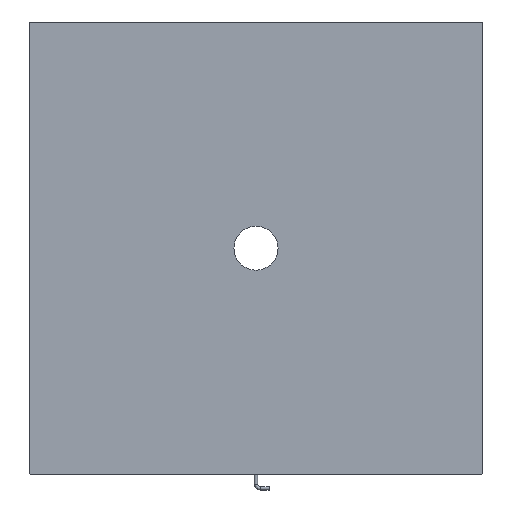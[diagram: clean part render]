
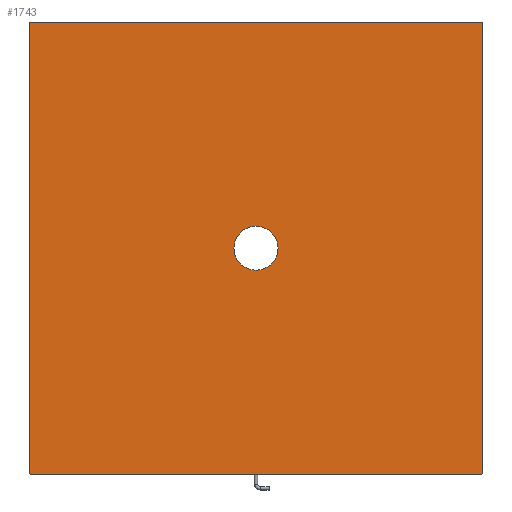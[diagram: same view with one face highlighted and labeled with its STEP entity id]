
A CAD part, top view. The second image highlights one B-rep face of the part: STEP entity #1743.
In plain terms, the highlighted planar face has unit normal (0, 0, 1).
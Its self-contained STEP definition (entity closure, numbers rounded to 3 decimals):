
#12 = VECTOR ( 'NONE', #502, 1000. ) ;
#22 = DIRECTION ( 'NONE',  ( 0., 0., -1. ) ) ;
#35 = VERTEX_POINT ( 'NONE', #1959 ) ;
#121 = VERTEX_POINT ( 'NONE', #1653 ) ;
#133 = VECTOR ( 'NONE', #416, 1000. ) ;
#158 = CARTESIAN_POINT ( 'NONE',  ( -257., -257., 40. ) ) ;
#217 = CARTESIAN_POINT ( 'NONE',  ( 0., 0., 40. ) ) ;
#219 = EDGE_CURVE ( 'NONE', #121, #324, #911, .T. ) ;
#230 = DIRECTION ( 'NONE',  ( 1., 0., 0. ) ) ;
#237 = CARTESIAN_POINT ( 'NONE',  ( 256.5, 257., 40. ) ) ;
#296 = VERTEX_POINT ( 'NONE', #237 ) ;
#303 = DIRECTION ( 'NONE',  ( 1., 0., 0. ) ) ;
#324 = VERTEX_POINT ( 'NONE', #1416 ) ;
#416 = DIRECTION ( 'NONE',  ( -0.707, -0.707, 0. ) ) ;
#423 = EDGE_CURVE ( 'NONE', #296, #1724, #2099, .T. ) ;
#425 = EDGE_LOOP ( 'NONE', ( #1160, #1150 ) ) ;
#432 = FACE_BOUND ( 'NONE', #425, .T. ) ;
#455 = LINE ( 'NONE', #1422, #133 ) ;
#476 = DIRECTION ( 'NONE',  ( -1., 0., 0. ) ) ;
#484 = ORIENTED_EDGE ( 'NONE', *, *, #823, .T. ) ;
#502 = DIRECTION ( 'NONE',  ( 0.707, 0.707, 0. ) ) ;
#513 = VECTOR ( 'NONE', #303, 1000. ) ;
#514 = DIRECTION ( 'NONE',  ( 0., 1., 0. ) ) ;
#515 = ORIENTED_EDGE ( 'NONE', *, *, #1679, .T. ) ;
#539 = CIRCLE ( 'NONE', #2033, 25. ) ;
#564 = EDGE_CURVE ( 'NONE', #1240, #1507, #1518, .T. ) ;
#617 = CARTESIAN_POINT ( 'NONE',  ( 256.5, 257., 40. ) ) ;
#681 = ORIENTED_EDGE ( 'NONE', *, *, #782, .T. ) ;
#686 = LINE ( 'NONE', #1690, #1988 ) ;
#700 = CARTESIAN_POINT ( 'NONE',  ( 257., 256.5, 40. ) ) ;
#718 = DIRECTION ( 'NONE',  ( 1., 0., 0. ) ) ;
#730 = VECTOR ( 'NONE', #1630, 1000. ) ;
#736 = EDGE_CURVE ( 'NONE', #1195, #296, #1732, .T. ) ;
#748 = VECTOR ( 'NONE', #1112, 1000. ) ;
#754 = LINE ( 'NONE', #158, #513 ) ;
#760 = ORIENTED_EDGE ( 'NONE', *, *, #736, .T. ) ;
#782 = EDGE_CURVE ( 'NONE', #35, #121, #754, .T. ) ;
#823 = EDGE_CURVE ( 'NONE', #324, #1195, #1212, .T. ) ;
#838 = CARTESIAN_POINT ( 'NONE',  ( 0., 0., 40. ) ) ;
#911 = LINE ( 'NONE', #2176, #12 ) ;
#929 = EDGE_LOOP ( 'NONE', ( #1952, #1523, #681, #1414, #484, #760, #992, #515 ) ) ;
#964 = VERTEX_POINT ( 'NONE', #1245 ) ;
#985 = CARTESIAN_POINT ( 'NONE',  ( -256.5, 257., 40. ) ) ;
#992 = ORIENTED_EDGE ( 'NONE', *, *, #423, .T. ) ;
#1112 = DIRECTION ( 'NONE',  ( 0., -1., 0. ) ) ;
#1124 = DIRECTION ( 'NONE',  ( -0.707, 0.707, 0. ) ) ;
#1150 = ORIENTED_EDGE ( 'NONE', *, *, #1211, .F. ) ;
#1160 = ORIENTED_EDGE ( 'NONE', *, *, #564, .F. ) ;
#1195 = VERTEX_POINT ( 'NONE', #700 ) ;
#1211 = EDGE_CURVE ( 'NONE', #1507, #1240, #539, .T. ) ;
#1212 = LINE ( 'NONE', #2177, #2048 ) ;
#1240 = VERTEX_POINT ( 'NONE', #2054 ) ;
#1245 = CARTESIAN_POINT ( 'NONE',  ( -257., -256.5, 40. ) ) ;
#1251 = CARTESIAN_POINT ( 'NONE',  ( 0., 0., 40. ) ) ;
#1343 = CARTESIAN_POINT ( 'NONE',  ( 25., 0., 40. ) ) ;
#1384 = FACE_OUTER_BOUND ( 'NONE', #929, .T. ) ;
#1413 = VECTOR ( 'NONE', #1124, 1000. ) ;
#1414 = ORIENTED_EDGE ( 'NONE', *, *, #219, .T. ) ;
#1416 = CARTESIAN_POINT ( 'NONE',  ( 257., -256.5, 40. ) ) ;
#1422 = CARTESIAN_POINT ( 'NONE',  ( -257., 256.5, 40. ) ) ;
#1457 = CARTESIAN_POINT ( 'NONE',  ( -257., -257., 40. ) ) ;
#1507 = VERTEX_POINT ( 'NONE', #1343 ) ;
#1518 = CIRCLE ( 'NONE', #1783, 25. ) ;
#1523 = ORIENTED_EDGE ( 'NONE', *, *, #1793, .T. ) ;
#1630 = DIRECTION ( 'NONE',  ( -1., 0., 0. ) ) ;
#1640 = LINE ( 'NONE', #1457, #748 ) ;
#1653 = CARTESIAN_POINT ( 'NONE',  ( 256.5, -257., 40. ) ) ;
#1660 = CARTESIAN_POINT ( 'NONE',  ( -257., 256.5, 40. ) ) ;
#1679 = EDGE_CURVE ( 'NONE', #1724, #1885, #455, .T. ) ;
#1690 = CARTESIAN_POINT ( 'NONE',  ( -256.5, -257., 40. ) ) ;
#1694 = EDGE_CURVE ( 'NONE', #1885, #964, #1640, .T. ) ;
#1724 = VERTEX_POINT ( 'NONE', #985 ) ;
#1732 = LINE ( 'NONE', #617, #1413 ) ;
#1743 = ADVANCED_FACE ( 'NONE', ( #1384, #432 ), #1984, .F. ) ;
#1760 = DIRECTION ( 'NONE',  ( 0., 0., 1. ) ) ;
#1783 = AXIS2_PLACEMENT_3D ( 'NONE', #1251, #1760, #230 ) ;
#1788 = CARTESIAN_POINT ( 'NONE',  ( -257., 257., 40. ) ) ;
#1793 = EDGE_CURVE ( 'NONE', #964, #35, #686, .T. ) ;
#1885 = VERTEX_POINT ( 'NONE', #1660 ) ;
#1894 = DIRECTION ( 'NONE',  ( 0., 0., 1. ) ) ;
#1952 = ORIENTED_EDGE ( 'NONE', *, *, #1694, .T. ) ;
#1959 = CARTESIAN_POINT ( 'NONE',  ( -256.5, -257., 40. ) ) ;
#1984 = PLANE ( 'NONE',  #2000 ) ;
#1988 = VECTOR ( 'NONE', #2174, 1000. ) ;
#2000 = AXIS2_PLACEMENT_3D ( 'NONE', #838, #22, #476 ) ;
#2033 = AXIS2_PLACEMENT_3D ( 'NONE', #217, #1894, #718 ) ;
#2048 = VECTOR ( 'NONE', #514, 1000. ) ;
#2054 = CARTESIAN_POINT ( 'NONE',  ( -25., 0., 40. ) ) ;
#2099 = LINE ( 'NONE', #1788, #730 ) ;
#2174 = DIRECTION ( 'NONE',  ( 0.707, -0.707, 0. ) ) ;
#2176 = CARTESIAN_POINT ( 'NONE',  ( 257., -256.5, 40. ) ) ;
#2177 = CARTESIAN_POINT ( 'NONE',  ( 257., -257., 40. ) ) ;
